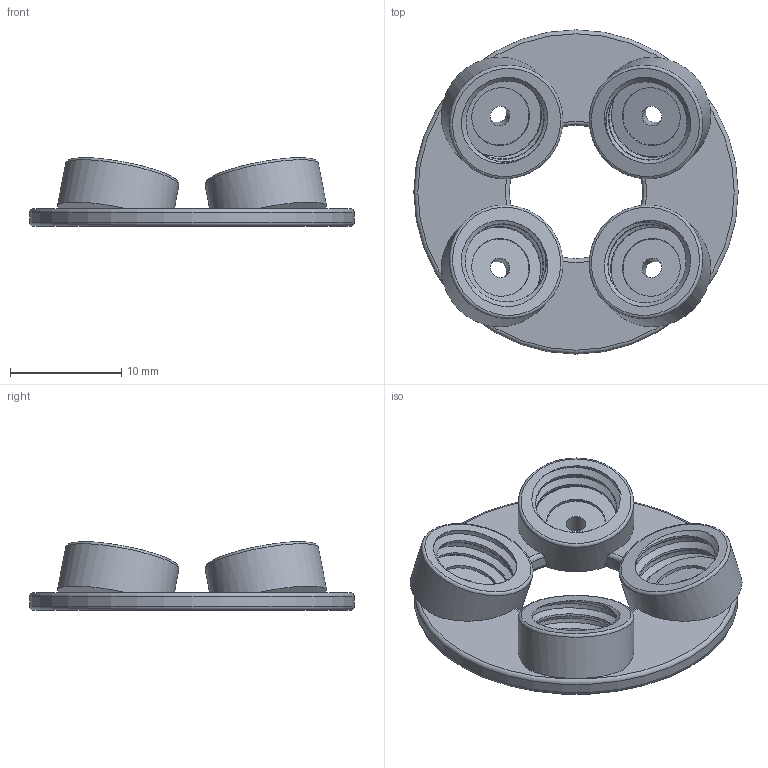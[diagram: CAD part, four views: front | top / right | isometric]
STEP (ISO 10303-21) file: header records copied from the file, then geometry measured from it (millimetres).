
FILE_DESCRIPTION(('Open CASCADE Model'),'2;1');
FILE_NAME('Open CASCADE Shape Model','2026-10-02T16:27:10',('Author'),( 'Open CASCADE'),'Open CASCADE STEP processor 7.9','Open CASCADE 7.9' ,'Unknown');
FILE_SCHEMA(('AUTOMOTIVE_DESIGN { 1 0 10303 214 1 1 1 1 }'));
Length unit declared in the file: millimetre
Products named in the file (1): Open CASCADE STEP translator 7.9 1
Bounding box: 29.19 x 29.19 x 6.18 mm (x, y, z)
Volume: 1448.6 mm3; surface area: 2273.7 mm2
Topology: 1 solids, 1 shells, 73 faces, 183 edges, 120 vertices
Faces by surface type: cylinder 29, plane 18, torus 14, bspline 12
Full cylindrical faces by diameter (mm): 1.8 x4, 5.3 x4, 7.3 x4, 10.4 x4, 29.192 x1
Entity records: 14003 total; most frequent: CARTESIAN_POINT 10709, DIRECTION 486, ORIENTED_EDGE 366, PCURVE 366, DEFINITIONAL_REPRESENTATION 366, B_SPLINE_CURVE_WITH_KNOTS 252, EDGE_CURVE 183, SURFACE_CURVE 164
